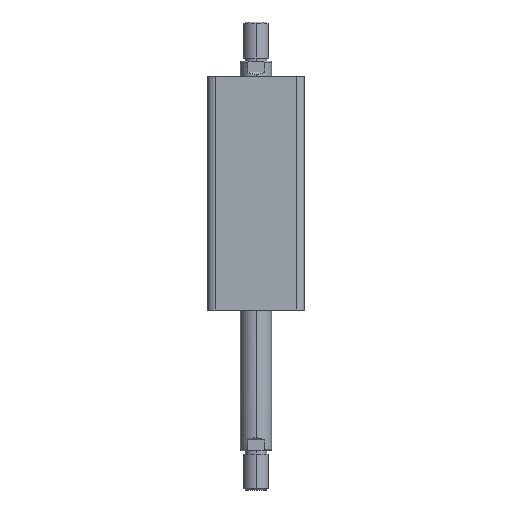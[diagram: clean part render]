
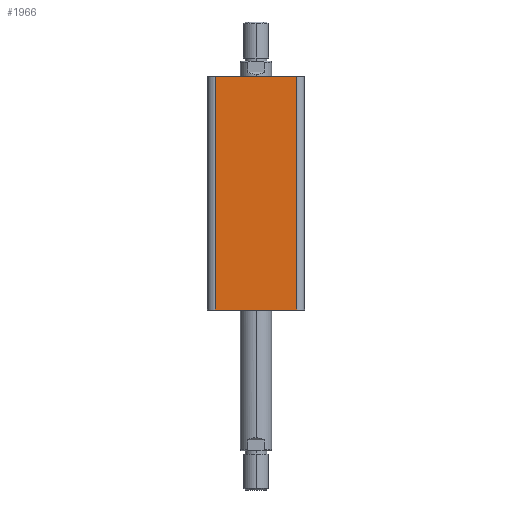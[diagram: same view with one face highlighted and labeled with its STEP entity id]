
A CAD part, left-side view. The second image highlights one B-rep face of the part: STEP entity #1966.
In plain terms, the highlighted planar face has unit normal (-1, 0, 0).
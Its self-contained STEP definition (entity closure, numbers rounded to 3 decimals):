
#73 = DIRECTION ( 'NONE',  ( 1., 0., 0. ) ) ;
#160 = CARTESIAN_POINT ( 'NONE',  ( -31., 31., 149. ) ) ;
#315 = DIRECTION ( 'NONE',  ( 0., 1., 0. ) ) ;
#323 = PLANE ( 'NONE',  #2098 ) ;
#400 = ORIENTED_EDGE ( 'NONE', *, *, #2870, .T. ) ;
#461 = CARTESIAN_POINT ( 'NONE',  ( -31., 26., 0. ) ) ;
#463 = CARTESIAN_POINT ( 'NONE',  ( -31., -26., 0. ) ) ;
#467 = CARTESIAN_POINT ( 'NONE',  ( -31., 26., 149. ) ) ;
#469 = CARTESIAN_POINT ( 'NONE',  ( -31., -26., 149. ) ) ;
#669 = CARTESIAN_POINT ( 'NONE',  ( -31., -26., 149. ) ) ;
#680 = CARTESIAN_POINT ( 'NONE',  ( -31., 31., 0. ) ) ;
#681 = DIRECTION ( 'NONE',  ( 0., -1., 0. ) ) ;
#682 = DIRECTION ( 'NONE',  ( 0., 0., 1. ) ) ;
#683 = CARTESIAN_POINT ( 'NONE',  ( -31., 31., 149. ) ) ;
#684 = DIRECTION ( 'NONE',  ( 0., -1., 0. ) ) ;
#685 = CARTESIAN_POINT ( 'NONE',  ( -31., 26., 149. ) ) ;
#686 = DIRECTION ( 'NONE',  ( 0., 0., -1. ) ) ;
#750 = VERTEX_POINT ( 'NONE', #469 ) ;
#751 = VERTEX_POINT ( 'NONE', #467 ) ;
#755 = VERTEX_POINT ( 'NONE', #463 ) ;
#756 = VERTEX_POINT ( 'NONE', #461 ) ;
#915 = FACE_OUTER_BOUND ( 'NONE', #2613, .T. ) ;
#1166 = LINE ( 'NONE', #669, #1175 ) ;
#1170 = LINE ( 'NONE', #680, #1173 ) ;
#1173 = VECTOR ( 'NONE', #681, 1000. ) ;
#1174 = LINE ( 'NONE', #683, #1177 ) ;
#1175 = VECTOR ( 'NONE', #682, 1000. ) ;
#1176 = LINE ( 'NONE', #685, #1179 ) ;
#1177 = VECTOR ( 'NONE', #684, 1000. ) ;
#1179 = VECTOR ( 'NONE', #686, 1000. ) ;
#1966 = ADVANCED_FACE ( 'NONE', ( #915 ), #323, .F. ) ;
#2098 = AXIS2_PLACEMENT_3D ( 'NONE', #160, #73, #315 ) ;
#2613 = EDGE_LOOP ( 'NONE', ( #400, #2650, #2652, #2655 ) ) ;
#2650 = ORIENTED_EDGE ( 'NONE', *, *, #2871, .T. ) ;
#2652 = ORIENTED_EDGE ( 'NONE', *, *, #2872, .F. ) ;
#2655 = ORIENTED_EDGE ( 'NONE', *, *, #2873, .T. ) ;
#2870 = EDGE_CURVE ( 'NONE', #756, #755, #1170, .T. ) ;
#2871 = EDGE_CURVE ( 'NONE', #755, #750, #1166, .T. ) ;
#2872 = EDGE_CURVE ( 'NONE', #751, #750, #1174, .T. ) ;
#2873 = EDGE_CURVE ( 'NONE', #751, #756, #1176, .T. ) ;
